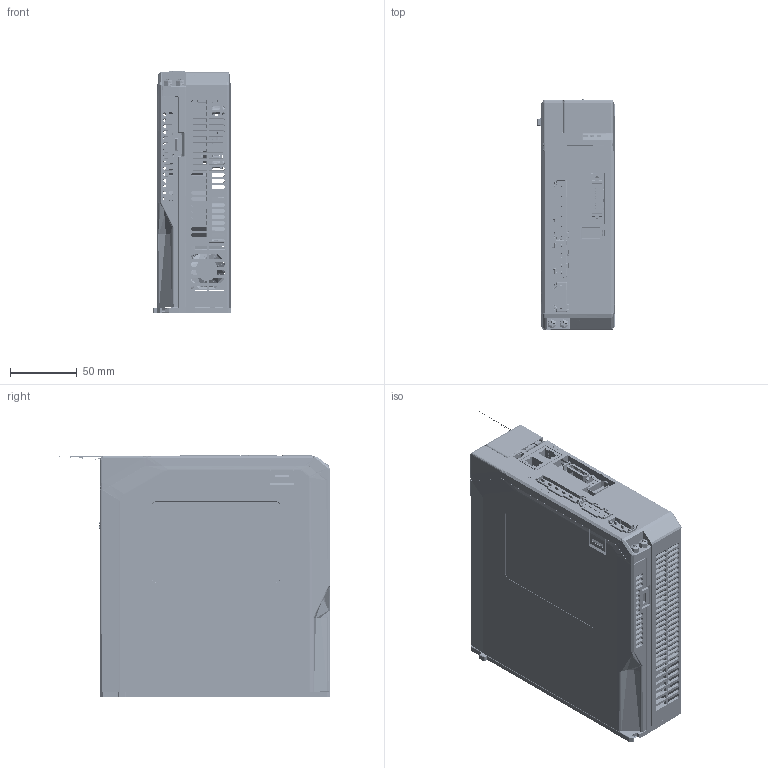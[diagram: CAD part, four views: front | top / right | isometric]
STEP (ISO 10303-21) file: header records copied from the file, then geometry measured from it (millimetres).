
FILE_DESCRIPTION (( 'STEP AP203' ), '1' );
FILE_NAME ('200VAC ,Rated power:750W~1KW EtherCAT.STEP', '2024-08-22T13:24:04', ( '' ), ( '' ), 'SwSTEP 2.0', 'SolidWorks 2022', '' );
FILE_SCHEMA (( 'CONFIG_CONTROL_DESIGN' ));
Products named in the file (1): 200VAC ，Rated power：750W~1KW EtherCAT
Bounding box: 58 x 206.22 x 181 mm (x, y, z)
Topology: 0 solids, 1798 shells, 23213 faces, 59327 edges, 39189 vertices
Faces by surface type: plane 15133, cylinder 4167, bspline 3314, cone 524, torus 40, sphere 35
Full cylindrical faces by diameter (mm): 0.01 x15, 1.6 x1
Entity records: 869653 total; most frequent: CARTESIAN_POINT 346045, ORIENTED_EDGE 114412, DIRECTION 90894, EDGE_CURVE 58897, LINE 39562, VECTOR 39562, VERTEX_POINT 39167, AXIS2_PLACEMENT_3D 25666
